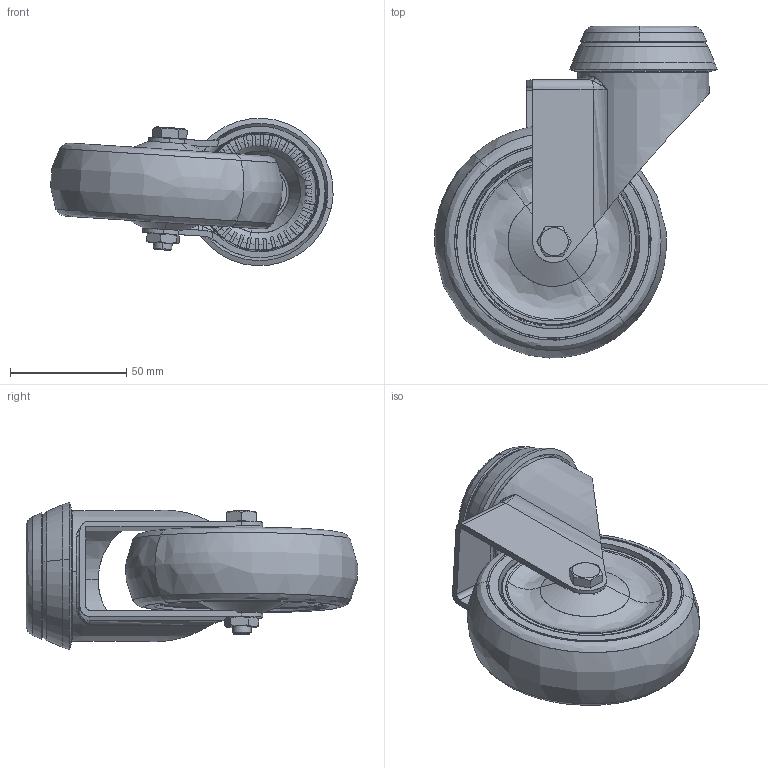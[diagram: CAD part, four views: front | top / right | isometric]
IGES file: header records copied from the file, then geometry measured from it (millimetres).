
Start section: SolidWorks IGES file using analytic representation for surfaces
Global section: file name: S:\Tyokansio\VL\14.2.2012\300962_IGES.IGS; native system: SolidWorks 2011; preprocessor: SolidWorks 2011; author: VilleLa; date: 120227.145009; units: millimetre
Bounding box: 121.27 x 142.64 x 63.32 mm (x, y, z)
Surface area: 86524 mm2 (no closed solid volume)
Topology: 0 solids, 0 shells, 264 faces, 3727 edges, 3725 vertices
Faces by surface type: bspline 180, revolution 84
